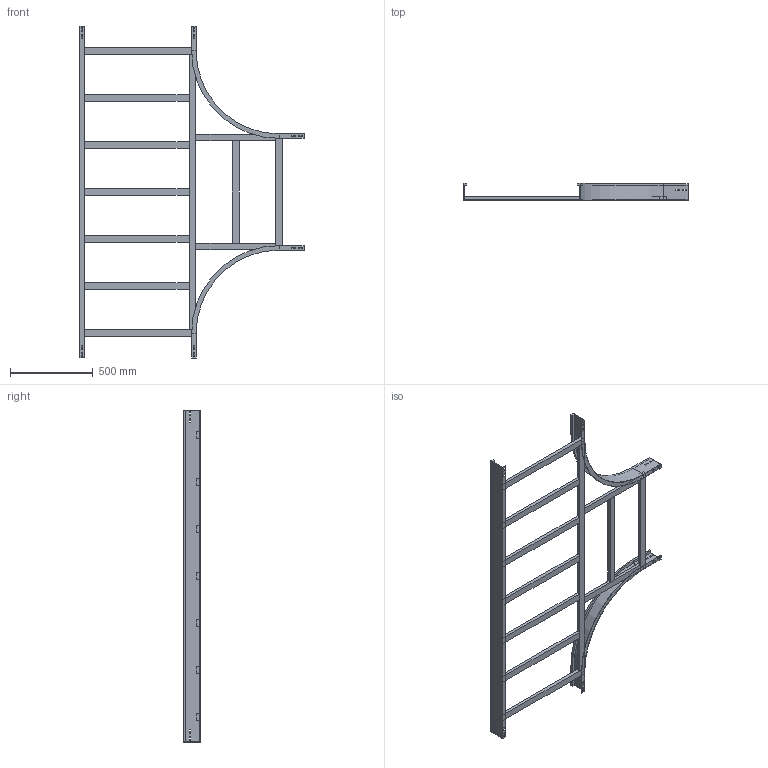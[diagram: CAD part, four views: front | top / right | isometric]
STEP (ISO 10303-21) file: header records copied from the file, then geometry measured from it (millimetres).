
FILE_DESCRIPTION (( 'STEP AP214' ), '1' );
FILE_NAME ('15B5D700.step', '2025-02-21T15:49:13', ( '' ), ( '' ), 'SwSTEP 2.0', 'SolidWorks 2023', '' );
FILE_SCHEMA (( 'AUTOMOTIVE_DESIGN' ));
Length unit declared in the file: millimetre
Products named in the file (8): LONGH.INTERNO 90°_H100_R500; TRAVERSINO_COPPIA_700; TRAVERSINO_INTERMEDIO_R500+700; TRAVERSINO_LONG._R500+700; LONGH.RETT_H100_R500+700; 15B5D700; TRAVERSINO_VERT_R500; TRAVERSINO_700
Assembly tree (15 placements, depth 2):
  15B5D700
    LONGH.INTERNO 90°_H100_R500  x2
    LONGH.RETT_H100_R500+700
    TRAVERSINO_700  x3
    TRAVERSINO_LONG._R500+700
    TRAVERSINO_INTERMEDIO_R500+700  x5
    TRAVERSINO_VERT_R500  x2
    TRAVERSINO_COPPIA_700
Bounding box: 1350 x 100 x 2000 mm (x, y, z)
Volume: 8813872.8 mm3; surface area: 2256039.4 mm2
Topology: 15 solids, 15 shells, 230 faces, 568 edges, 368 vertices
Faces by surface type: plane 222, cylinder 8
Entity records: 4217 total; most frequent: CARTESIAN_POINT 696, ORIENTED_EDGE 664, DIRECTION 636, EDGE_CURVE 332, VECTOR 324, LINE 324, VERTEX_POINT 216, EDGE_LOOP 162
